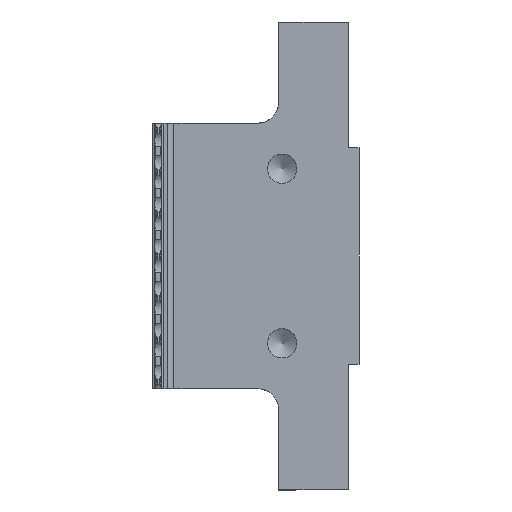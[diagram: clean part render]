
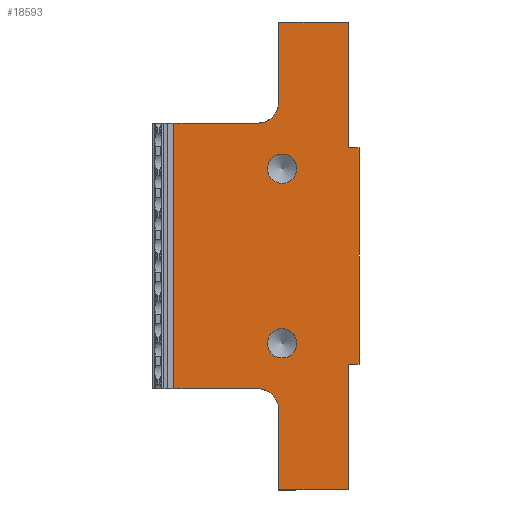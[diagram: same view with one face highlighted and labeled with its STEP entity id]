
A CAD part, left-side view. The second image highlights one B-rep face of the part: STEP entity #18593.
In plain terms, the highlighted planar face has unit normal (-1, 0, 0).
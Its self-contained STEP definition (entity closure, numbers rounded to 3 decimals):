
#63 = ORIENTED_EDGE ( 'NONE', *, *, #4110, .T. ) ;
#912 = LINE ( 'NONE', #15718, #7856 ) ;
#940 = EDGE_CURVE ( 'NONE', #9100, #24308, #25880, .T. ) ;
#1162 = EDGE_CURVE ( 'NONE', #5862, #4423, #22970, .T. ) ;
#1385 = FACE_BOUND ( 'NONE', #2535, .T. ) ;
#1566 = LINE ( 'NONE', #7490, #23372 ) ;
#1653 = PLANE ( 'NONE',  #15255 ) ;
#1757 = CARTESIAN_POINT ( 'NONE',  ( 0., 0., -15.5 ) ) ;
#1778 = ORIENTED_EDGE ( 'NONE', *, *, #13271, .T. ) ;
#1915 = EDGE_CURVE ( 'NONE', #13243, #13246, #9813, .T. ) ;
#1917 = VECTOR ( 'NONE', #21967, 1000. ) ;
#1926 = DIRECTION ( 'NONE',  ( 0., -1., 0. ) ) ;
#2004 = ORIENTED_EDGE ( 'NONE', *, *, #20250, .T. ) ;
#2315 = LINE ( 'NONE', #18340, #16525 ) ;
#2401 = VERTEX_POINT ( 'NONE', #7653 ) ;
#2535 = EDGE_LOOP ( 'NONE', ( #11343 ) ) ;
#2596 = VERTEX_POINT ( 'NONE', #17088 ) ;
#2961 = CARTESIAN_POINT ( 'NONE',  ( 0., 0., 0. ) ) ;
#3247 = AXIS2_PLACEMENT_3D ( 'NONE', #3795, #25734, #25873 ) ;
#3294 = CARTESIAN_POINT ( 'NONE',  ( 0., 25., -19. ) ) ;
#3493 = DIRECTION ( 'NONE',  ( 1., 0., 0. ) ) ;
#3795 = CARTESIAN_POINT ( 'NONE',  ( 0., 13., -22. ) ) ;
#4110 = EDGE_CURVE ( 'NONE', #5862, #18725, #15810, .T. ) ;
#4228 = DIRECTION ( 'NONE',  ( 0., 1., 0. ) ) ;
#4397 = EDGE_LOOP ( 'NONE', ( #18878, #11823, #22553, #5036, #2004, #1778, #20846, #8374, #63, #18255, #23989, #23420, #15405, #4628 ) ) ;
#4423 = VERTEX_POINT ( 'NONE', #21552 ) ;
#4628 = ORIENTED_EDGE ( 'NONE', *, *, #25090, .F. ) ;
#4717 = CARTESIAN_POINT ( 'NONE',  ( 0., -1.5, -15.5 ) ) ;
#4979 = CARTESIAN_POINT ( 'NONE',  ( 0., 25., -33.5 ) ) ;
#5036 = ORIENTED_EDGE ( 'NONE', *, *, #1915, .F. ) ;
#5077 = CARTESIAN_POINT ( 'NONE',  ( 0., 13., 19. ) ) ;
#5364 = DIRECTION ( 'NONE',  ( 0., 0., 1. ) ) ;
#5400 = AXIS2_PLACEMENT_3D ( 'NONE', #11965, #22076, #15907 ) ;
#5649 = VECTOR ( 'NONE', #22062, 1000. ) ;
#5772 = CIRCLE ( 'NONE', #20453, 2.1 ) ;
#5862 = VERTEX_POINT ( 'NONE', #3294 ) ;
#6318 = LINE ( 'NONE', #12356, #6882 ) ;
#6522 = LINE ( 'NONE', #8090, #21725 ) ;
#6707 = EDGE_CURVE ( 'NONE', #18537, #4423, #2315, .T. ) ;
#6882 = VECTOR ( 'NONE', #15903, 1000. ) ;
#7326 = AXIS2_PLACEMENT_3D ( 'NONE', #9304, #25328, #5364 ) ;
#7490 = CARTESIAN_POINT ( 'NONE',  ( 0., 0., 0. ) ) ;
#7544 = CARTESIAN_POINT ( 'NONE',  ( 0., 60., -19. ) ) ;
#7653 = CARTESIAN_POINT ( 'NONE',  ( 0., 10., 22. ) ) ;
#7856 = VECTOR ( 'NONE', #25701, 1000. ) ;
#8020 = VERTEX_POINT ( 'NONE', #16026 ) ;
#8090 = CARTESIAN_POINT ( 'NONE',  ( 0., 0., -33.5 ) ) ;
#8246 = LINE ( 'NONE', #22288, #22005 ) ;
#8374 = ORIENTED_EDGE ( 'NONE', *, *, #1162, .F. ) ;
#8486 = DIRECTION ( 'NONE',  ( 0., 1., 0. ) ) ;
#9100 = VERTEX_POINT ( 'NONE', #4717 ) ;
#9304 = CARTESIAN_POINT ( 'NONE',  ( 0., 9.5, -12.5 ) ) ;
#9525 = CARTESIAN_POINT ( 'NONE',  ( 0., -1.5, 15.5 ) ) ;
#9813 = LINE ( 'NONE', #19798, #18230 ) ;
#9891 = LINE ( 'NONE', #20393, #19439 ) ;
#10327 = CARTESIAN_POINT ( 'NONE',  ( 0., 13., -19. ) ) ;
#10579 = CARTESIAN_POINT ( 'NONE',  ( 0., 10., -22. ) ) ;
#10692 = CIRCLE ( 'NONE', #7326, 2.1 ) ;
#11274 = EDGE_LOOP ( 'NONE', ( #24518 ) ) ;
#11343 = ORIENTED_EDGE ( 'NONE', *, *, #22215, .F. ) ;
#11512 = VERTEX_POINT ( 'NONE', #22996 ) ;
#11823 = ORIENTED_EDGE ( 'NONE', *, *, #25901, .F. ) ;
#11965 = CARTESIAN_POINT ( 'NONE',  ( 0., 13., 22. ) ) ;
#12356 = CARTESIAN_POINT ( 'NONE',  ( 0., 0., 15.5 ) ) ;
#12826 = DIRECTION ( 'NONE',  ( 0., 0., 1. ) ) ;
#13208 = VECTOR ( 'NONE', #12826, 1000. ) ;
#13243 = VERTEX_POINT ( 'NONE', #18398 ) ;
#13246 = VERTEX_POINT ( 'NONE', #16031 ) ;
#13271 = EDGE_CURVE ( 'NONE', #2401, #18537, #16737, .T. ) ;
#14026 = DIRECTION ( 'NONE',  ( 0., 0., -1. ) ) ;
#15088 = VERTEX_POINT ( 'NONE', #10579 ) ;
#15255 = AXIS2_PLACEMENT_3D ( 'NONE', #17680, #3493, #21758 ) ;
#15405 = ORIENTED_EDGE ( 'NONE', *, *, #20988, .F. ) ;
#15424 = CIRCLE ( 'NONE', #3247, 3. ) ;
#15718 = CARTESIAN_POINT ( 'NONE',  ( 0., 10., 49. ) ) ;
#15764 = CARTESIAN_POINT ( 'NONE',  ( 0., -1.5, 20.25 ) ) ;
#15810 = LINE ( 'NONE', #7544, #1917 ) ;
#15903 = DIRECTION ( 'NONE',  ( 0., -1., 0. ) ) ;
#15907 = DIRECTION ( 'NONE',  ( 0., 0., -1. ) ) ;
#15975 = DIRECTION ( 'NONE',  ( 0., 0., 1. ) ) ;
#16026 = CARTESIAN_POINT ( 'NONE',  ( 0., 9.5, -10.4 ) ) ;
#16031 = CARTESIAN_POINT ( 'NONE',  ( 0., 0., 33.5 ) ) ;
#16159 = VERTEX_POINT ( 'NONE', #19978 ) ;
#16525 = VECTOR ( 'NONE', #8486, 1000. ) ;
#16737 = CIRCLE ( 'NONE', #5400, 3. ) ;
#17021 = LINE ( 'NONE', #2961, #19447 ) ;
#17088 = CARTESIAN_POINT ( 'NONE',  ( 0., 0., 15.5 ) ) ;
#17426 = FACE_BOUND ( 'NONE', #11274, .T. ) ;
#17558 = EDGE_CURVE ( 'NONE', #8020, #8020, #10692, .T. ) ;
#17680 = CARTESIAN_POINT ( 'NONE',  ( 0., 0., 0. ) ) ;
#17708 = EDGE_CURVE ( 'NONE', #15088, #23253, #8246, .T. ) ;
#17814 = CARTESIAN_POINT ( 'NONE',  ( 0., 9.5, 12.5 ) ) ;
#18230 = VECTOR ( 'NONE', #1926, 1000. ) ;
#18255 = ORIENTED_EDGE ( 'NONE', *, *, #21086, .T. ) ;
#18340 = CARTESIAN_POINT ( 'NONE',  ( 0., 60., 19. ) ) ;
#18398 = CARTESIAN_POINT ( 'NONE',  ( 0., 10., 33.5 ) ) ;
#18537 = VERTEX_POINT ( 'NONE', #5077 ) ;
#18593 = ADVANCED_FACE ( 'NONE', ( #1385, #17426, #21489 ), #1653, .F. ) ;
#18725 = VERTEX_POINT ( 'NONE', #10327 ) ;
#18878 = ORIENTED_EDGE ( 'NONE', *, *, #940, .T. ) ;
#19439 = VECTOR ( 'NONE', #4228, 1000. ) ;
#19446 = EDGE_CURVE ( 'NONE', #13246, #2596, #17021, .T. ) ;
#19447 = VECTOR ( 'NONE', #23052, 1000. ) ;
#19530 = DIRECTION ( 'NONE',  ( -1., 0., 0. ) ) ;
#19798 = CARTESIAN_POINT ( 'NONE',  ( 0., 0., 33.5 ) ) ;
#19978 = CARTESIAN_POINT ( 'NONE',  ( 0., 9.5, 14.6 ) ) ;
#20250 = EDGE_CURVE ( 'NONE', #13243, #2401, #912, .T. ) ;
#20393 = CARTESIAN_POINT ( 'NONE',  ( 0., 0., -15.5 ) ) ;
#20453 = AXIS2_PLACEMENT_3D ( 'NONE', #17814, #19530, #15975 ) ;
#20846 = ORIENTED_EDGE ( 'NONE', *, *, #6707, .T. ) ;
#20988 = EDGE_CURVE ( 'NONE', #24390, #11512, #1566, .T. ) ;
#21086 = EDGE_CURVE ( 'NONE', #18725, #15088, #15424, .T. ) ;
#21143 = DIRECTION ( 'NONE',  ( 0., 0., -1. ) ) ;
#21489 = FACE_OUTER_BOUND ( 'NONE', #4397, .T. ) ;
#21552 = CARTESIAN_POINT ( 'NONE',  ( 0., 25., 19. ) ) ;
#21725 = VECTOR ( 'NONE', #22535, 1000. ) ;
#21758 = DIRECTION ( 'NONE',  ( 0., 0., -1. ) ) ;
#21967 = DIRECTION ( 'NONE',  ( 0., -1., 0. ) ) ;
#22005 = VECTOR ( 'NONE', #14026, 1000. ) ;
#22015 = CARTESIAN_POINT ( 'NONE',  ( 0., 10., -33.5 ) ) ;
#22062 = DIRECTION ( 'NONE',  ( 0., 0., 1. ) ) ;
#22076 = DIRECTION ( 'NONE',  ( 1., 0., 0. ) ) ;
#22215 = EDGE_CURVE ( 'NONE', #16159, #16159, #5772, .T. ) ;
#22288 = CARTESIAN_POINT ( 'NONE',  ( 0., 10., -19. ) ) ;
#22394 = EDGE_CURVE ( 'NONE', #11512, #23253, #6522, .T. ) ;
#22535 = DIRECTION ( 'NONE',  ( 0., 1., 0. ) ) ;
#22553 = ORIENTED_EDGE ( 'NONE', *, *, #19446, .F. ) ;
#22970 = LINE ( 'NONE', #4979, #13208 ) ;
#22996 = CARTESIAN_POINT ( 'NONE',  ( 0., 0., -33.5 ) ) ;
#23052 = DIRECTION ( 'NONE',  ( 0., 0., -1. ) ) ;
#23253 = VERTEX_POINT ( 'NONE', #22015 ) ;
#23372 = VECTOR ( 'NONE', #21143, 1000. ) ;
#23420 = ORIENTED_EDGE ( 'NONE', *, *, #22394, .F. ) ;
#23989 = ORIENTED_EDGE ( 'NONE', *, *, #17708, .T. ) ;
#24308 = VERTEX_POINT ( 'NONE', #9525 ) ;
#24390 = VERTEX_POINT ( 'NONE', #1757 ) ;
#24518 = ORIENTED_EDGE ( 'NONE', *, *, #17558, .F. ) ;
#25090 = EDGE_CURVE ( 'NONE', #9100, #24390, #9891, .T. ) ;
#25328 = DIRECTION ( 'NONE',  ( -1., 0., 0. ) ) ;
#25701 = DIRECTION ( 'NONE',  ( 0., 0., -1. ) ) ;
#25734 = DIRECTION ( 'NONE',  ( 1., 0., 0. ) ) ;
#25873 = DIRECTION ( 'NONE',  ( 0., 0., -1. ) ) ;
#25880 = LINE ( 'NONE', #15764, #5649 ) ;
#25901 = EDGE_CURVE ( 'NONE', #2596, #24308, #6318, .T. ) ;
